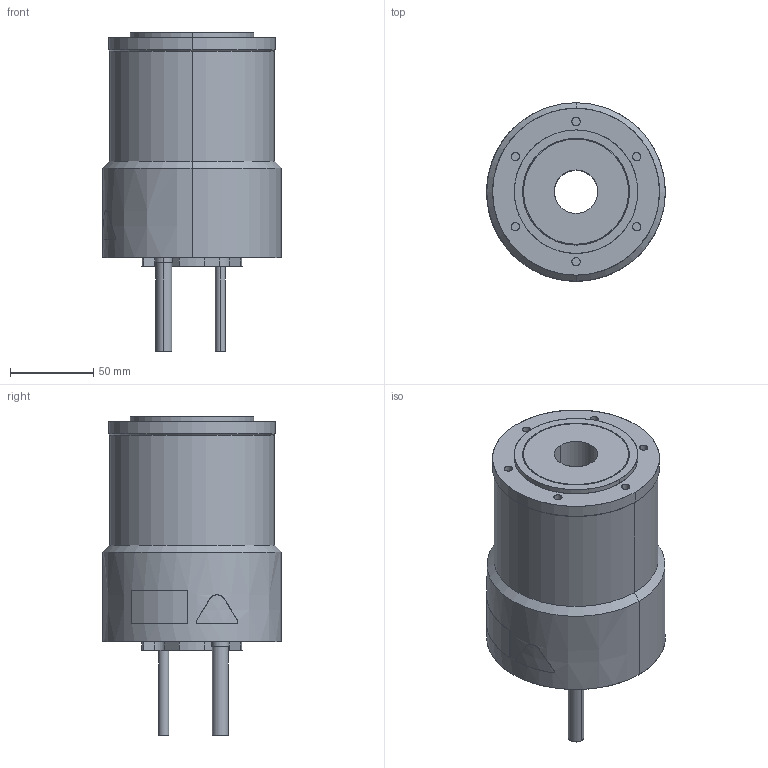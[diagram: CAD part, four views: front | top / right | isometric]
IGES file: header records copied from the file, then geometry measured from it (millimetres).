
Start section: SolidWorks IGES file using analytic representation for surfaces
Bounding box: 107.04 x 107 x 191 mm (x, y, z)
Surface area: 77634.4 mm2 (no closed solid volume)
Topology: 0 solids, 0 shells, 123 faces, 2614 edges, 2614 vertices
Faces by surface type: revolution 75, bspline 48
